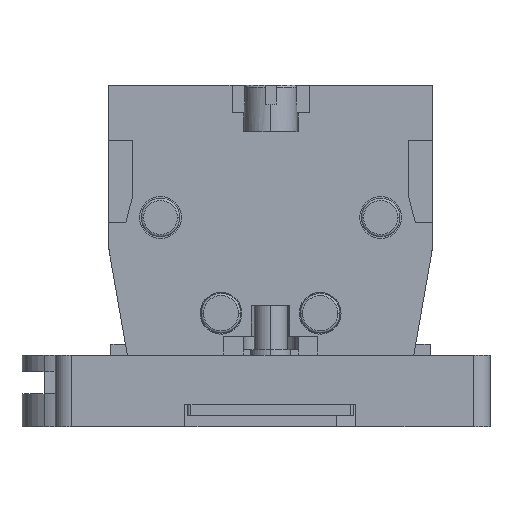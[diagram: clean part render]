
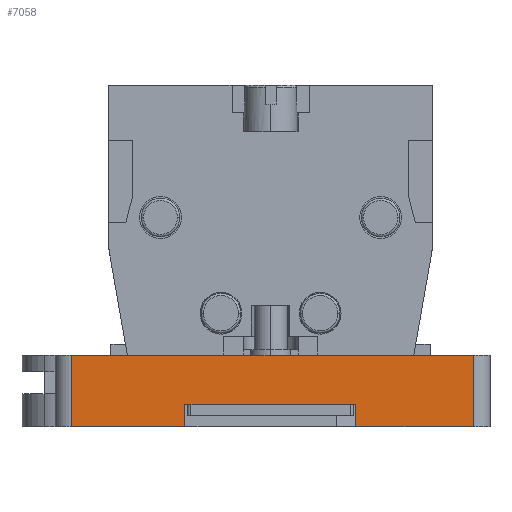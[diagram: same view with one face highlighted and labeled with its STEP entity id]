
A CAD part, left-side view. The second image highlights one B-rep face of the part: STEP entity #7058.
In plain terms, the highlighted planar face has unit normal (-1, 0, 0).
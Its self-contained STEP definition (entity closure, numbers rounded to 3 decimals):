
#57 = VECTOR ( 'NONE', #5605, 1000. ) ;
#58 = DIRECTION ( 'NONE',  ( 0., 0., -1. ) ) ;
#123 = LINE ( 'NONE', #14297, #14423 ) ;
#433 = CARTESIAN_POINT ( 'NONE',  ( -15., -7.8, 0. ) ) ;
#509 = CARTESIAN_POINT ( 'NONE',  ( -15., -7.8, 2. ) ) ;
#644 = VERTEX_POINT ( 'NONE', #509 ) ;
#895 = CARTESIAN_POINT ( 'NONE',  ( -15., 7.7, 2. ) ) ;
#1332 = ORIENTED_EDGE ( 'NONE', *, *, #11689, .T. ) ;
#1416 = CARTESIAN_POINT ( 'NONE',  ( -15., -7.8, 2. ) ) ;
#2299 = CARTESIAN_POINT ( 'NONE',  ( -15., 18., 0. ) ) ;
#2779 = ORIENTED_EDGE ( 'NONE', *, *, #13339, .F. ) ;
#3703 = CARTESIAN_POINT ( 'NONE',  ( -15., -18.5, 6.5 ) ) ;
#3711 = DIRECTION ( 'NONE',  ( 0., -1., 0. ) ) ;
#3761 = EDGE_CURVE ( 'NONE', #16710, #15904, #13275, .T. ) ;
#4123 = LINE ( 'NONE', #9761, #57 ) ;
#4411 = CARTESIAN_POINT ( 'NONE',  ( -15., 7.7, 0. ) ) ;
#4485 = DIRECTION ( 'NONE',  ( 0., -1., 0. ) ) ;
#4631 = AXIS2_PLACEMENT_3D ( 'NONE', #16723, #14006, #5654 ) ;
#4704 = DIRECTION ( 'NONE',  ( 0., 0., -1. ) ) ;
#4981 = VECTOR ( 'NONE', #4485, 1000. ) ;
#5086 = LINE ( 'NONE', #11642, #7947 ) ;
#5605 = DIRECTION ( 'NONE',  ( 0., 0., -1. ) ) ;
#5654 = DIRECTION ( 'NONE',  ( 0., 1., 0. ) ) ;
#5758 = CARTESIAN_POINT ( 'NONE',  ( -15., 20.5, 6.5 ) ) ;
#5946 = DIRECTION ( 'NONE',  ( 0., 0., 1. ) ) ;
#6004 = VERTEX_POINT ( 'NONE', #2299 ) ;
#6161 = CARTESIAN_POINT ( 'NONE',  ( -15., 7.7, 2. ) ) ;
#6237 = EDGE_LOOP ( 'NONE', ( #1332, #10916, #2779, #10539, #8707, #16410, #16639, #13190 ) ) ;
#6376 = LINE ( 'NONE', #1416, #12447 ) ;
#6625 = EDGE_CURVE ( 'NONE', #9754, #6004, #5086, .T. ) ;
#7058 = ADVANCED_FACE ( 'NONE', ( #15292 ), #15259, .F. ) ;
#7947 = VECTOR ( 'NONE', #4704, 1000. ) ;
#8323 = VERTEX_POINT ( 'NONE', #4411 ) ;
#8580 = VERTEX_POINT ( 'NONE', #3703 ) ;
#8582 = DIRECTION ( 'NONE',  ( 0., -1., 0. ) ) ;
#8707 = ORIENTED_EDGE ( 'NONE', *, *, #3761, .T. ) ;
#9628 = LINE ( 'NONE', #16193, #12890 ) ;
#9666 = LINE ( 'NONE', #6161, #12926 ) ;
#9754 = VERTEX_POINT ( 'NONE', #17336 ) ;
#9761 = CARTESIAN_POINT ( 'NONE',  ( -15., 7.7, 2. ) ) ;
#10539 = ORIENTED_EDGE ( 'NONE', *, *, #11250, .T. ) ;
#10812 = EDGE_CURVE ( 'NONE', #15904, #8580, #123, .T. ) ;
#10916 = ORIENTED_EDGE ( 'NONE', *, *, #16558, .F. ) ;
#11063 = CARTESIAN_POINT ( 'NONE',  ( -15., -18.5, 0. ) ) ;
#11250 = EDGE_CURVE ( 'NONE', #644, #16710, #6376, .T. ) ;
#11436 = CARTESIAN_POINT ( 'NONE',  ( -15., 20.5, 0. ) ) ;
#11642 = CARTESIAN_POINT ( 'NONE',  ( -15., 18., 0. ) ) ;
#11689 = EDGE_CURVE ( 'NONE', #6004, #8323, #9628, .T. ) ;
#12447 = VECTOR ( 'NONE', #58, 1000. ) ;
#12890 = VECTOR ( 'NONE', #3711, 1000. ) ;
#12926 = VECTOR ( 'NONE', #14505, 1000. ) ;
#13190 = ORIENTED_EDGE ( 'NONE', *, *, #6625, .T. ) ;
#13275 = LINE ( 'NONE', #11436, #4981 ) ;
#13324 = VECTOR ( 'NONE', #8582, 1000. ) ;
#13339 = EDGE_CURVE ( 'NONE', #644, #15604, #9666, .T. ) ;
#14006 = DIRECTION ( 'NONE',  ( 1., 0., 0. ) ) ;
#14297 = CARTESIAN_POINT ( 'NONE',  ( -15., -18.5, 6.5 ) ) ;
#14377 = EDGE_CURVE ( 'NONE', #9754, #8580, #17446, .T. ) ;
#14423 = VECTOR ( 'NONE', #5946, 1000. ) ;
#14505 = DIRECTION ( 'NONE',  ( 0., 1., 0. ) ) ;
#15259 = PLANE ( 'NONE',  #4631 ) ;
#15292 = FACE_OUTER_BOUND ( 'NONE', #6237, .T. ) ;
#15604 = VERTEX_POINT ( 'NONE', #895 ) ;
#15904 = VERTEX_POINT ( 'NONE', #11063 ) ;
#16193 = CARTESIAN_POINT ( 'NONE',  ( -15., 20.5, 0. ) ) ;
#16410 = ORIENTED_EDGE ( 'NONE', *, *, #10812, .T. ) ;
#16558 = EDGE_CURVE ( 'NONE', #15604, #8323, #4123, .T. ) ;
#16639 = ORIENTED_EDGE ( 'NONE', *, *, #14377, .F. ) ;
#16710 = VERTEX_POINT ( 'NONE', #433 ) ;
#16723 = CARTESIAN_POINT ( 'NONE',  ( -15., 20.5, 6.5 ) ) ;
#17336 = CARTESIAN_POINT ( 'NONE',  ( -15., 18., 6.5 ) ) ;
#17446 = LINE ( 'NONE', #5758, #13324 ) ;
